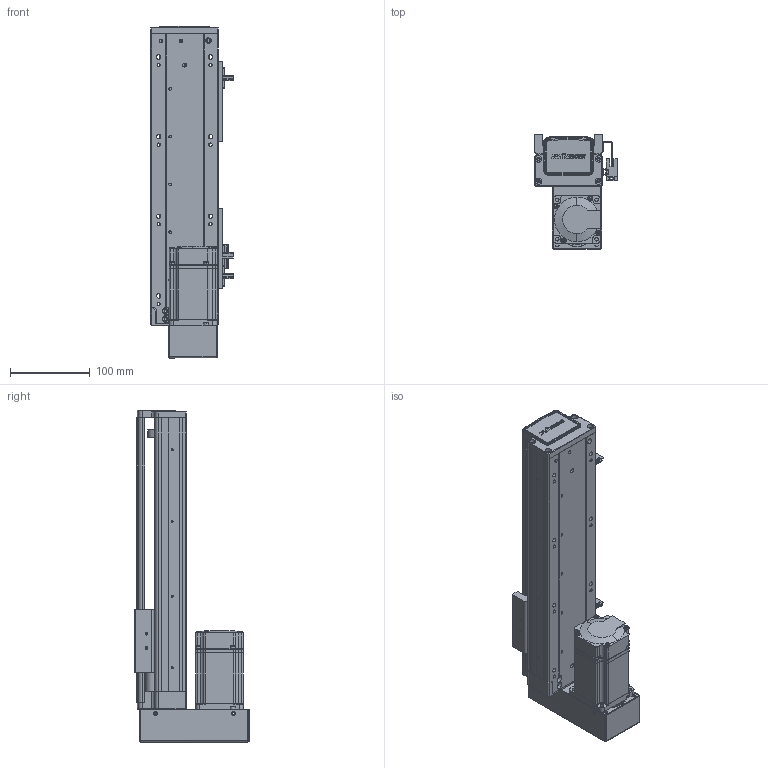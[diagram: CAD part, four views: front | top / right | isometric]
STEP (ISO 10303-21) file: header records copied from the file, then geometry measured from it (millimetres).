
FILE_DESCRIPTION (( 'STEP AP203' ), '1' );
FILE_NAME ('RY80-L1620-300-BK.SLDASM_200.step', '2021-02-20T07:10:23', ( '盈信电脑' ), ( '东莞市道滘镇水果街19号' ), 'SwSTEP 2.0', 'SolidWorks 2012', '' );
FILE_SCHEMA (( 'CONFIG_CONTROL_DESIGN' ));
Length unit declared in the file: millimetre
Products named in the file (15): 滅袉蝶18-10; 覜茼ん672; T倰羞; RY80臏賑輸; RY80-300蛌諉倰第奻裔啣-BK_200; RY80綴裔啣; RY80-300蛌諉倰第菁釱-BK_200; RY80-L1620-300-BK.SLDASM_200; RY80狟殏萇儂假蚾啣; 滅袉蝶18-24; RY80狟殏俋欶; 侂狟200W萇儂; RY80转接电机端支撑座; 1; RY80俋离覜茼え
Assembly tree (17 placements, depth 3):
  RY80-L1620-300-BK.SLDASM_200
    RY80-300蛌諉倰第菁釱-BK_200
    RY80臏賑輸
    RY80-300蛌諉倰第奻裔啣-BK_200
    RY80綴裔啣
    滅袉蝶18-10
    T倰羞  x2
    覜茼ん672  x3
    RY80俋离覜茼え
    RY80转接电机端支撑座
    侂狟200W萇儂
      1
    RY80狟殏萇儂假蚾啣
    RY80狟殏俋欶
    滅袉蝶18-24
Bounding box: 103.7 x 144 x 417 mm (x, y, z)
Volume: 1098064.2 mm3; surface area: 398293.2 mm2
Topology: 16 solids, 16 shells, 2053 faces, 5637 edges, 3651 vertices
Faces by surface type: plane 1148, cylinder 711, cone 132, bspline 62
Entity records: 64335 total; most frequent: CARTESIAN_POINT 15960, ORIENTED_EDGE 9970, DIRECTION 9354, EDGE_CURVE 4985, VERTEX_POINT 3267, LINE 3172, VECTOR 3172, AXIS2_PLACEMENT_3D 3091
